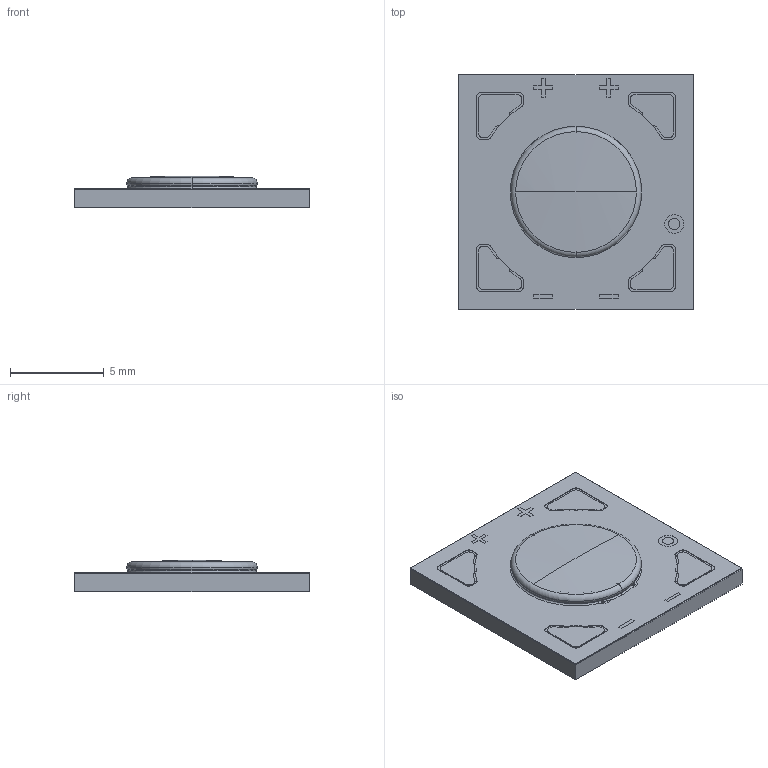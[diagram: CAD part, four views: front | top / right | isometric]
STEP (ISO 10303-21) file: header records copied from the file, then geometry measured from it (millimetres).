
FILE_DESCRIPTION (( 'STEP AP214' ), '1' );
FILE_NAME ('V6 BXRE.STEP', '2013-11-14T17:12:10', ( '' ), ( '' ), 'SwSTEP 2.0', 'SolidWorks 2013', '' );
FILE_SCHEMA (( 'AUTOMOTIVE_DESIGN' ));
Length unit declared in the file: millimetre
Products named in the file (6): V6 BXRE Ph; V6 BXRE RD; V6 BXRE SM; V6 BXRE Metal; V6 BXRE base_Round_Center; V6 BXRE
Assembly tree (5 placements, depth 2):
  V6 BXRE
    V6 BXRE base_Round_Center
    V6 BXRE Metal
    V6 BXRE SM
    V6 BXRE RD
    V6 BXRE Ph
Bounding box: 12.5 x 12.5 x 1.7 mm (x, y, z)
Volume: 180.1 mm3; surface area: 755.1 mm2
Topology: 12 solids, 12 shells, 214 faces, 536 edges, 353 vertices
Faces by surface type: plane 102, cylinder 92, torus 18, sphere 2
Entity records: 7337 total; most frequent: DIRECTION 1208, CARTESIAN_POINT 1111, ORIENTED_EDGE 1072, EDGE_CURVE 536, AXIS2_PLACEMENT_3D 450, VERTEX_POINT 353, LINE 308, VECTOR 308
